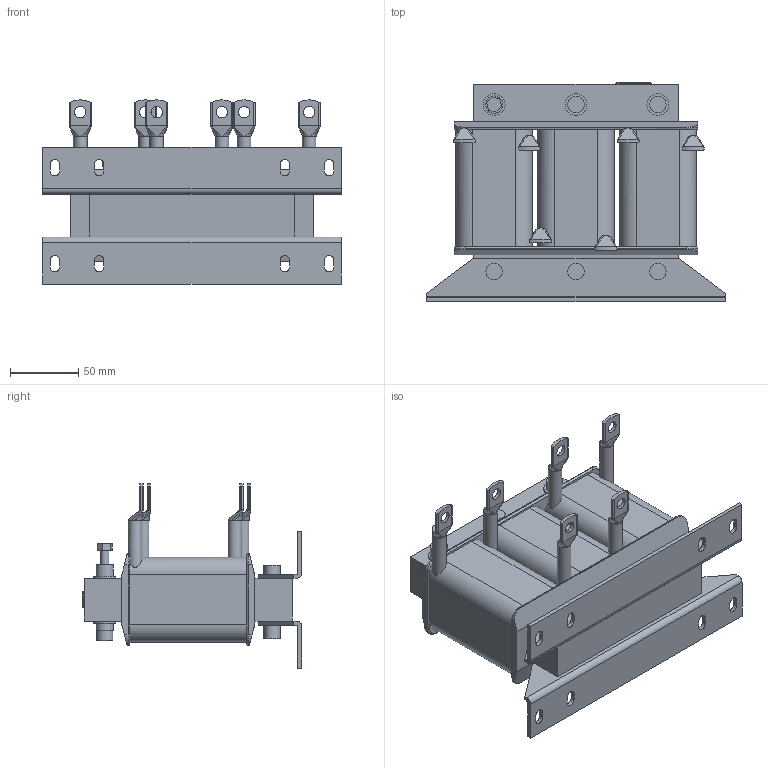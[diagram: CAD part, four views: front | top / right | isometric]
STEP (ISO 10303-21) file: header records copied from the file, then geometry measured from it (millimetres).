
FILE_DESCRIPTION (( 'STEP AP214' ), '1' );
FILE_NAME ('16Z1B03-1000.STEP', '2022-04-12T11:48:20', ( '' ), ( '' ), 'SwSTEP 2.0', 'SolidWorks 2019', '' );
FILE_SCHEMA (( 'AUTOMOTIVE_DESIGN' ));
Length unit declared in the file: millimetre
Products named in the file (1): 16Z1B03-1000
Bounding box: 219 x 160.92 x 135 mm (x, y, z)
Volume: 1345294.4 mm3; surface area: 159988.6 mm2
Topology: 1 solids, 1 shells, 353 faces, 911 edges, 584 vertices
Faces by surface type: plane 163, cylinder 121, bspline 61, torus 8
Full cylindrical faces by diameter (mm): 6 x1, 8.4 x6, 10 x6, 12 x10, 12.6 x2, 16 x6
Entity records: 14646 total; most frequent: CARTESIAN_POINT 6479, ORIENTED_EDGE 1740, DIRECTION 1378, EDGE_CURVE 870, VERTEX_POINT 574, AXIS2_PLACEMENT_3D 482, EDGE_LOOP 440, LINE 414
